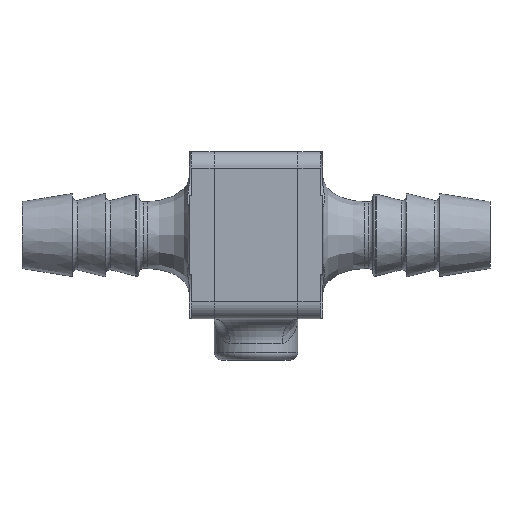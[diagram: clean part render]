
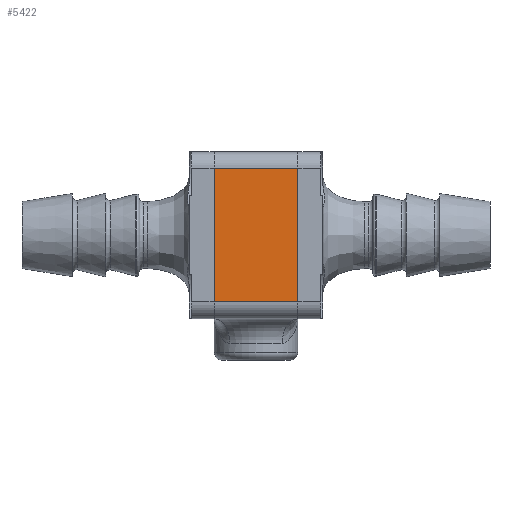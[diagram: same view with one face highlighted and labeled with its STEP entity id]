
A CAD part, left-side view. The second image highlights one B-rep face of the part: STEP entity #5422.
In plain terms, the highlighted planar face has unit normal (-1, 0, 0).
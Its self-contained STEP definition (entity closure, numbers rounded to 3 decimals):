
#3618=CARTESIAN_POINT('',(-10.,10.,-8.));
#3619=VERTEX_POINT('',#3618);
#3627=CARTESIAN_POINT('',(-10.,10.,8.));
#3628=VERTEX_POINT('',#3627);
#3629=CARTESIAN_POINT('',(-10.,10.,-8.));
#3630=DIRECTION('',(-0.,-0.,1.));
#3631=VECTOR('',#3630,16.);
#3632=LINE('',#3629,#3631);
#3633=EDGE_CURVE('',#3619,#3628,#3632,.T.);
#3828=CARTESIAN_POINT('',(-10.,-0.,8.));
#3829=VERTEX_POINT('',#3828);
#3837=CARTESIAN_POINT('',(-10.,0.,-8.));
#3838=VERTEX_POINT('',#3837);
#3839=CARTESIAN_POINT('',(-10.,0.,-8.));
#3840=DIRECTION('',(0.,-0.,1.));
#3841=VECTOR('',#3840,16.);
#3842=LINE('',#3839,#3841);
#3843=EDGE_CURVE('',#3838,#3829,#3842,.T.);
#5389=CARTESIAN_POINT('',(-10.,0.,-8.));
#5390=DIRECTION('',(0.,1.,0.));
#5391=VECTOR('',#5390,10.);
#5392=LINE('',#5389,#5391);
#5393=EDGE_CURVE('',#3838,#3619,#5392,.T.);
#5406=CARTESIAN_POINT('',(-10.,0.,-8.));
#5407=DIRECTION('',(-1.,0.,0.));
#5408=DIRECTION('',(0.,-0.,1.));
#5409=AXIS2_PLACEMENT_3D('',#5406,#5407,#5408);
#5410=PLANE('',#5409);
#5411=ORIENTED_EDGE('',*,*,#3843,.T.);
#5412=CARTESIAN_POINT('',(-10.,-0.,8.));
#5413=DIRECTION('',(0.,1.,0.));
#5414=VECTOR('',#5413,10.);
#5415=LINE('',#5412,#5414);
#5416=EDGE_CURVE('',#3829,#3628,#5415,.T.);
#5417=ORIENTED_EDGE('',*,*,#5416,.T.);
#5418=ORIENTED_EDGE('',*,*,#3633,.F.);
#5419=ORIENTED_EDGE('',*,*,#5393,.F.);
#5420=EDGE_LOOP('',(#5411,#5417,#5418,#5419));
#5421=FACE_BOUND('',#5420,.T.);
#5422=ADVANCED_FACE('',(#5421),#5410,.T.);
